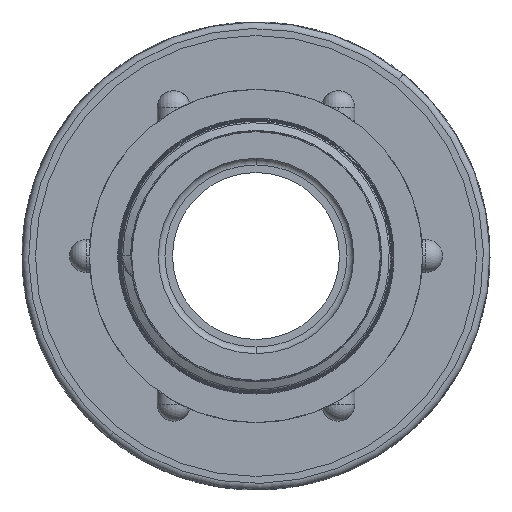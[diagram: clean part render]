
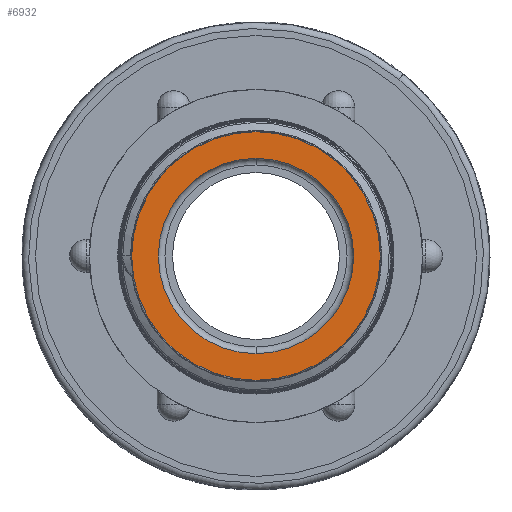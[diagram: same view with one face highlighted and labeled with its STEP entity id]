
A CAD part, left-side view. The second image highlights one B-rep face of the part: STEP entity #6932.
In plain terms, the highlighted planar face has unit normal (-1, 0, 0).
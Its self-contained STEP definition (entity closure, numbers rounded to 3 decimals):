
#1341 = EDGE_LOOP ( 'NONE', ( #8819, #8820 ) ) ;
#1343 = EDGE_LOOP ( 'NONE', ( #8815, #8817 ) ) ;
#3887 = EDGE_CURVE ( 'NONE', #4325, #4451, #7986, .T. ) ;
#4300 = VERTEX_POINT ( 'NONE', #10547 ) ;
#4301 = VERTEX_POINT ( 'NONE', #10548 ) ;
#4325 = VERTEX_POINT ( 'NONE', #10570 ) ;
#4451 = VERTEX_POINT ( 'NONE', #10696 ) ;
#5033 = EDGE_CURVE ( 'NONE', #4451, #4325, #8884, .T. ) ;
#6932 = ADVANCED_FACE ( 'NONE', ( #20152, #20153 ), #20154, .F. ) ;
#7019 = AXIS2_PLACEMENT_3D ( 'NONE', #20148, #20156, #20157 ) ;
#7986 = CIRCLE ( 'NONE', #7995, 14.835 ) ;
#7995 = AXIS2_PLACEMENT_3D ( 'NONE', #31181, #31183, #31185 ) ;
#8815 = ORIENTED_EDGE ( 'NONE', *, *, #5033, .F. ) ;
#8817 = ORIENTED_EDGE ( 'NONE', *, *, #3887, .F. ) ;
#8819 = ORIENTED_EDGE ( 'NONE', *, *, #14001, .T. ) ;
#8820 = ORIENTED_EDGE ( 'NONE', *, *, #13961, .T. ) ;
#8884 = CIRCLE ( 'NONE', #8887, 14.835 ) ;
#8887 = AXIS2_PLACEMENT_3D ( 'NONE', #12446, #12447, #12448 ) ;
#10547 = CARTESIAN_POINT ( 'NONE',  ( 0., 0., -18.879 ) ) ;
#10548 = CARTESIAN_POINT ( 'NONE',  ( 0., 0., 18.879 ) ) ;
#10570 = CARTESIAN_POINT ( 'NONE',  ( 0., 0., -14.835 ) ) ;
#10696 = CARTESIAN_POINT ( 'NONE',  ( 0., 0., 14.835 ) ) ;
#12446 = CARTESIAN_POINT ( 'NONE',  ( 0., 0., 0. ) ) ;
#12447 = DIRECTION ( 'NONE',  ( -1., 0., 0. ) ) ;
#12448 = DIRECTION ( 'NONE',  ( 0., 0., 1. ) ) ;
#13961 = EDGE_CURVE ( 'NONE', #4301, #4300, #21863, .T. ) ;
#14001 = EDGE_CURVE ( 'NONE', #4300, #4301, #21870, .T. ) ;
#20148 = CARTESIAN_POINT ( 'NONE',  ( 0., 14.835, 0. ) ) ;
#20152 = FACE_BOUND ( 'NONE', #1343, .T. ) ;
#20153 = FACE_OUTER_BOUND ( 'NONE', #1341, .T. ) ;
#20154 = PLANE ( 'NONE',  #7019 ) ;
#20156 = DIRECTION ( 'NONE',  ( 1., 0., 0. ) ) ;
#20157 = DIRECTION ( 'NONE',  ( 0., 0., -1. ) ) ;
#21863 = CIRCLE ( 'NONE', #21868, 18.879 ) ;
#21868 = AXIS2_PLACEMENT_3D ( 'NONE', #34988, #34989, #34990 ) ;
#21870 = CIRCLE ( 'NONE', #21872, 18.879 ) ;
#21872 = AXIS2_PLACEMENT_3D ( 'NONE', #35194, #35195, #35196 ) ;
#31181 = CARTESIAN_POINT ( 'NONE',  ( 0., 0., 0. ) ) ;
#31183 = DIRECTION ( 'NONE',  ( -1., 0., 0. ) ) ;
#31185 = DIRECTION ( 'NONE',  ( 0., 0., 1. ) ) ;
#34988 = CARTESIAN_POINT ( 'NONE',  ( 0., 0., 0. ) ) ;
#34989 = DIRECTION ( 'NONE',  ( -1., 0., 0. ) ) ;
#34990 = DIRECTION ( 'NONE',  ( 0., 0., 1. ) ) ;
#35194 = CARTESIAN_POINT ( 'NONE',  ( 0., 0., 0. ) ) ;
#35195 = DIRECTION ( 'NONE',  ( -1., 0., 0. ) ) ;
#35196 = DIRECTION ( 'NONE',  ( 0., 0., 1. ) ) ;
